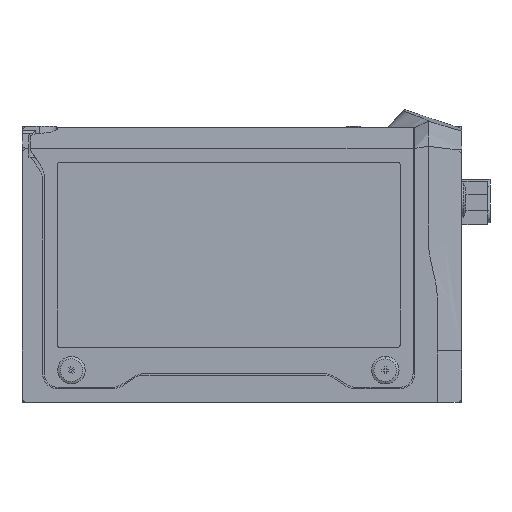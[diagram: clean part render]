
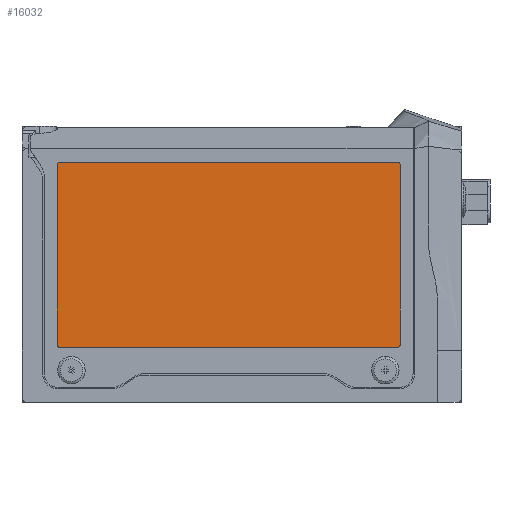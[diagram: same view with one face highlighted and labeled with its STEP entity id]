
A CAD part, front view. The second image highlights one B-rep face of the part: STEP entity #16032.
In plain terms, the highlighted planar face has unit normal (0, -1, 0).
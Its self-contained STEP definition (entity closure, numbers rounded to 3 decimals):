
#58 = LINE ( 'NONE', #3088, #18100 ) ;
#273 = VERTEX_POINT ( 'NONE', #3949 ) ;
#1624 = VECTOR ( 'NONE', #6634, 1000. ) ;
#1853 = ORIENTED_EDGE ( 'NONE', *, *, #5338, .T. ) ;
#1974 = CARTESIAN_POINT ( 'NONE',  ( 54.597, -0.1, 34.5 ) ) ;
#2582 = AXIS2_PLACEMENT_3D ( 'NONE', #1974, #19104, #17602 ) ;
#2733 = EDGE_CURVE ( 'NONE', #8741, #3145, #7401, .T. ) ;
#3088 = CARTESIAN_POINT ( 'NONE',  ( 5.097, -0.1, 8. ) ) ;
#3145 = VERTEX_POINT ( 'NONE', #14116 ) ;
#3705 = CARTESIAN_POINT ( 'NONE',  ( 5.097, -0.1, 8.5 ) ) ;
#3851 = EDGE_CURVE ( 'NONE', #13629, #7093, #10861, .T. ) ;
#3934 = DIRECTION ( 'NONE',  ( -1., 0., 0. ) ) ;
#3949 = CARTESIAN_POINT ( 'NONE',  ( 54.597, -0.1, 8. ) ) ;
#3990 = CARTESIAN_POINT ( 'NONE',  ( 54.597, -0.1, 8.5 ) ) ;
#4247 = AXIS2_PLACEMENT_3D ( 'NONE', #10418, #8895, #11841 ) ;
#4377 = VECTOR ( 'NONE', #13945, 1000. ) ;
#4487 = CIRCLE ( 'NONE', #13155, 0.5 ) ;
#4571 = CARTESIAN_POINT ( 'NONE',  ( 5.597, -0.1, 8.5 ) ) ;
#5338 = EDGE_CURVE ( 'NONE', #273, #8741, #4487, .T. ) ;
#5508 = CARTESIAN_POINT ( 'NONE',  ( 5.097, -0.1, 8. ) ) ;
#5652 = DIRECTION ( 'NONE',  ( -1., 0., 0. ) ) ;
#6113 = DIRECTION ( 'NONE',  ( 0., -1., 0. ) ) ;
#6120 = VERTEX_POINT ( 'NONE', #12113 ) ;
#6146 = EDGE_CURVE ( 'NONE', #18197, #6120, #17896, .T. ) ;
#6245 = DIRECTION ( 'NONE',  ( -1., 0., 0. ) ) ;
#6634 = DIRECTION ( 'NONE',  ( 0., 0., -1. ) ) ;
#6707 = CARTESIAN_POINT ( 'NONE',  ( 5.097, -0.1, 34.5 ) ) ;
#6851 = EDGE_CURVE ( 'NONE', #3145, #13629, #18123, .T. ) ;
#6887 = VECTOR ( 'NONE', #6245, 1000. ) ;
#7038 = ORIENTED_EDGE ( 'NONE', *, *, #9192, .T. ) ;
#7093 = VERTEX_POINT ( 'NONE', #13115 ) ;
#7277 = FACE_OUTER_BOUND ( 'NONE', #8570, .T. ) ;
#7401 = LINE ( 'NONE', #18546, #4377 ) ;
#7871 = LINE ( 'NONE', #5508, #1624 ) ;
#7976 = ORIENTED_EDGE ( 'NONE', *, *, #15856, .T. ) ;
#8522 = DIRECTION ( 'NONE',  ( 0., -1., 0. ) ) ;
#8570 = EDGE_LOOP ( 'NONE', ( #12149, #12704, #7038, #1853, #8713, #11927, #15461, #7976 ) ) ;
#8713 = ORIENTED_EDGE ( 'NONE', *, *, #2733, .T. ) ;
#8741 = VERTEX_POINT ( 'NONE', #10918 ) ;
#8895 = DIRECTION ( 'NONE',  ( 0., 1., 0. ) ) ;
#9103 = CARTESIAN_POINT ( 'NONE',  ( 5.097, -0.1, 35. ) ) ;
#9192 = EDGE_CURVE ( 'NONE', #6120, #273, #58, .T. ) ;
#9599 = VERTEX_POINT ( 'NONE', #6707 ) ;
#10060 = CIRCLE ( 'NONE', #12973, 0.5 ) ;
#10418 = CARTESIAN_POINT ( 'NONE',  ( 5.097, -0.1, 8. ) ) ;
#10693 = DIRECTION ( 'NONE',  ( 1., 0., 0. ) ) ;
#10853 = EDGE_CURVE ( 'NONE', #9599, #18197, #7871, .T. ) ;
#10861 = LINE ( 'NONE', #9103, #6887 ) ;
#10918 = CARTESIAN_POINT ( 'NONE',  ( 55.097, -0.1, 8.5 ) ) ;
#11841 = DIRECTION ( 'NONE',  ( -1., 0., 0. ) ) ;
#11927 = ORIENTED_EDGE ( 'NONE', *, *, #6851, .T. ) ;
#12113 = CARTESIAN_POINT ( 'NONE',  ( 5.597, -0.1, 8. ) ) ;
#12149 = ORIENTED_EDGE ( 'NONE', *, *, #10853, .T. ) ;
#12704 = ORIENTED_EDGE ( 'NONE', *, *, #6146, .T. ) ;
#12973 = AXIS2_PLACEMENT_3D ( 'NONE', #18948, #8522, #5652 ) ;
#13045 = AXIS2_PLACEMENT_3D ( 'NONE', #4571, #6113, #16556 ) ;
#13115 = CARTESIAN_POINT ( 'NONE',  ( 5.597, -0.1, 35. ) ) ;
#13155 = AXIS2_PLACEMENT_3D ( 'NONE', #3990, #14336, #3934 ) ;
#13156 = CARTESIAN_POINT ( 'NONE',  ( 54.597, -0.1, 35. ) ) ;
#13629 = VERTEX_POINT ( 'NONE', #13156 ) ;
#13945 = DIRECTION ( 'NONE',  ( 0., 0., 1. ) ) ;
#14116 = CARTESIAN_POINT ( 'NONE',  ( 55.097, -0.1, 34.5 ) ) ;
#14336 = DIRECTION ( 'NONE',  ( 0., -1., 0. ) ) ;
#15461 = ORIENTED_EDGE ( 'NONE', *, *, #3851, .T. ) ;
#15856 = EDGE_CURVE ( 'NONE', #7093, #9599, #10060, .T. ) ;
#16032 = ADVANCED_FACE ( 'NONE', ( #7277 ), #19196, .F. ) ;
#16556 = DIRECTION ( 'NONE',  ( -1., 0., 0. ) ) ;
#17602 = DIRECTION ( 'NONE',  ( -1., 0., 0. ) ) ;
#17896 = CIRCLE ( 'NONE', #13045, 0.5 ) ;
#18100 = VECTOR ( 'NONE', #10693, 1000. ) ;
#18123 = CIRCLE ( 'NONE', #2582, 0.5 ) ;
#18197 = VERTEX_POINT ( 'NONE', #3705 ) ;
#18546 = CARTESIAN_POINT ( 'NONE',  ( 55.097, -0.1, 8. ) ) ;
#18948 = CARTESIAN_POINT ( 'NONE',  ( 5.597, -0.1, 34.5 ) ) ;
#19104 = DIRECTION ( 'NONE',  ( 0., -1., 0. ) ) ;
#19196 = PLANE ( 'NONE',  #4247 ) ;
